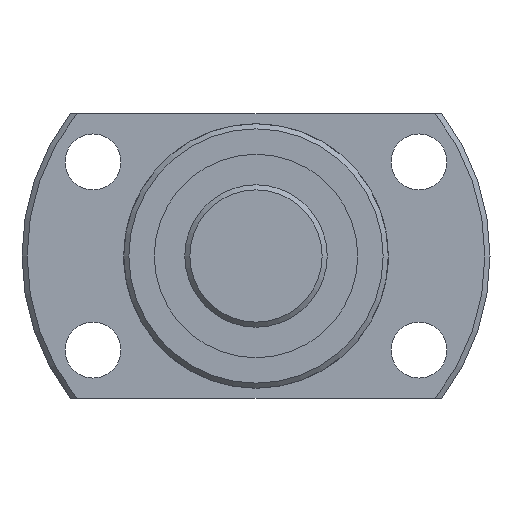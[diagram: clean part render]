
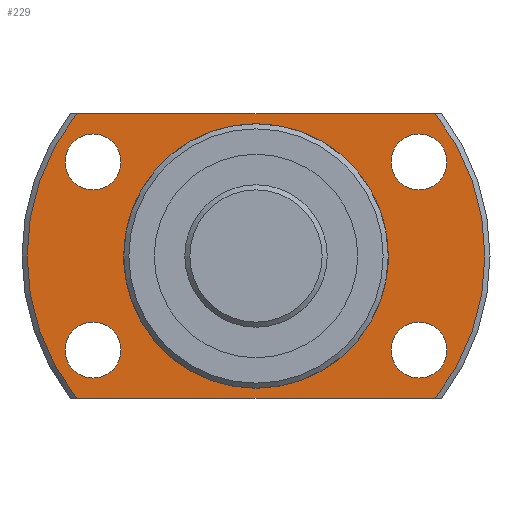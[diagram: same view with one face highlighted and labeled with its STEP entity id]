
A CAD part, left-side view. The second image highlights one B-rep face of the part: STEP entity #229.
In plain terms, the highlighted planar face has unit normal (-1, 0, 0).
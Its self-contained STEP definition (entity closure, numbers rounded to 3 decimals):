
#229 = ADVANCED_FACE( '', ( #398, #399, #400, #401, #402, #403 ), #404, .F. );
#398 = FACE_OUTER_BOUND( '', #597, .T. );
#399 = FACE_BOUND( '', #598, .T. );
#400 = FACE_BOUND( '', #599, .T. );
#401 = FACE_BOUND( '', #600, .T. );
#402 = FACE_BOUND( '', #601, .T. );
#403 = FACE_BOUND( '', #602, .T. );
#404 = PLANE( '', #603 );
#597 = EDGE_LOOP( '', ( #1066, #1067, #1068, #1069 ) );
#598 = EDGE_LOOP( '', ( #1070 ) );
#599 = EDGE_LOOP( '', ( #1071 ) );
#600 = EDGE_LOOP( '', ( #1072 ) );
#601 = EDGE_LOOP( '', ( #1073 ) );
#602 = EDGE_LOOP( '', ( #1074 ) );
#603 = AXIS2_PLACEMENT_3D( '', #1075, #1076, #1077 );
#1066 = ORIENTED_EDGE( '', *, *, #1233, .F. );
#1067 = ORIENTED_EDGE( '', *, *, #1334, .T. );
#1068 = ORIENTED_EDGE( '', *, *, #1328, .F. );
#1069 = ORIENTED_EDGE( '', *, *, #1227, .T. );
#1070 = ORIENTED_EDGE( '', *, *, #1335, .T. );
#1071 = ORIENTED_EDGE( '', *, *, #1336, .T. );
#1072 = ORIENTED_EDGE( '', *, *, #1337, .T. );
#1073 = ORIENTED_EDGE( '', *, *, #1338, .T. );
#1074 = ORIENTED_EDGE( '', *, *, #1330, .T. );
#1075 = CARTESIAN_POINT( '', ( 19., 12.8, 0. ) );
#1076 = DIRECTION( '', ( 1., 0., 0. ) );
#1077 = DIRECTION( '', ( 0., 0., -1. ) );
#1227 = EDGE_CURVE( '', #1411, #1409, #1412, .T. );
#1233 = EDGE_CURVE( '', #1422, #1409, #1423, .T. );
#1328 = EDGE_CURVE( '', #1411, #1588, #1589, .T. );
#1330 = EDGE_CURVE( '', #1591, #1591, #1592, .T. );
#1334 = EDGE_CURVE( '', #1422, #1588, #1596, .T. );
#1335 = EDGE_CURVE( '', #1597, #1597, #1598, .T. );
#1336 = EDGE_CURVE( '', #1599, #1599, #1600, .T. );
#1337 = EDGE_CURVE( '', #1601, #1601, #1602, .T. );
#1338 = EDGE_CURVE( '', #1603, #1603, #1604, .T. );
#1409 = VERTEX_POINT( '', #1692 );
#1411 = VERTEX_POINT( '', #1697 );
#1412 = LINE( '', #1698, #1699 );
#1422 = VERTEX_POINT( '', #1720 );
#1423 = CIRCLE( '', #1721, 22.5 );
#1588 = VERTEX_POINT( '', #1993 );
#1589 = CIRCLE( '', #1994, 22.5 );
#1591 = VERTEX_POINT( '', #1999 );
#1592 = CIRCLE( '', #2000, 12.8 );
#1596 = LINE( '', #2004, #2005 );
#1597 = VERTEX_POINT( '', #2006 );
#1598 = CIRCLE( '', #2007, 2.75 );
#1599 = VERTEX_POINT( '', #2008 );
#1600 = CIRCLE( '', #2009, 2.75 );
#1601 = VERTEX_POINT( '', #2010 );
#1602 = CIRCLE( '', #2011, 2.75 );
#1603 = VERTEX_POINT( '', #2012 );
#1604 = CIRCLE( '', #2013, 2.75 );
#1692 = CARTESIAN_POINT( '', ( 19., 17.614, 14. ) );
#1697 = CARTESIAN_POINT( '', ( 19., -17.614, 14. ) );
#1698 = CARTESIAN_POINT( '', ( 19., 12.8, 14. ) );
#1699 = VECTOR( '', #2108, 1000. );
#1720 = CARTESIAN_POINT( '', ( 19., 17.614, -14. ) );
#1721 = AXIS2_PLACEMENT_3D( '', #2111, #2112, #2113 );
#1993 = CARTESIAN_POINT( '', ( 19., -17.614, -14. ) );
#1994 = AXIS2_PLACEMENT_3D( '', #2277, #2278, #2279 );
#1999 = CARTESIAN_POINT( '', ( 19., 0., -12.8 ) );
#2000 = AXIS2_PLACEMENT_3D( '', #2280, #2281, #2282 );
#2004 = CARTESIAN_POINT( '', ( 19., 12.8, -14. ) );
#2005 = VECTOR( '', #2292, 1000. );
#2006 = CARTESIAN_POINT( '', ( 19., -16.021, -12. ) );
#2007 = AXIS2_PLACEMENT_3D( '', #2293, #2294, #2295 );
#2008 = CARTESIAN_POINT( '', ( 19., -16.021, 6.5 ) );
#2009 = AXIS2_PLACEMENT_3D( '', #2296, #2297, #2298 );
#2010 = CARTESIAN_POINT( '', ( 19., 16.021, -12. ) );
#2011 = AXIS2_PLACEMENT_3D( '', #2299, #2300, #2301 );
#2012 = CARTESIAN_POINT( '', ( 19., 16.021, 6.5 ) );
#2013 = AXIS2_PLACEMENT_3D( '', #2302, #2303, #2304 );
#2108 = DIRECTION( '', ( 0., 1., 0. ) );
#2111 = CARTESIAN_POINT( '', ( 19., 0., 0. ) );
#2112 = DIRECTION( '', ( 1., 0., 0. ) );
#2113 = DIRECTION( '', ( 0., 0., -1. ) );
#2277 = CARTESIAN_POINT( '', ( 19., 0., 0. ) );
#2278 = DIRECTION( '', ( 1., 0., 0. ) );
#2279 = DIRECTION( '', ( 0., 0., -1. ) );
#2280 = CARTESIAN_POINT( '', ( 19., 0., 0. ) );
#2281 = DIRECTION( '', ( 1., 0., 0. ) );
#2282 = DIRECTION( '', ( 0., 0., -1. ) );
#2292 = DIRECTION( '', ( 0., -1., 0. ) );
#2293 = CARTESIAN_POINT( '', ( 19., -16.021, -9.25 ) );
#2294 = DIRECTION( '', ( 1., 0., 0. ) );
#2295 = DIRECTION( '', ( 0., 0., -1. ) );
#2296 = CARTESIAN_POINT( '', ( 19., -16.021, 9.25 ) );
#2297 = DIRECTION( '', ( 1., 0., 0. ) );
#2298 = DIRECTION( '', ( 0., 0., -1. ) );
#2299 = CARTESIAN_POINT( '', ( 19., 16.021, -9.25 ) );
#2300 = DIRECTION( '', ( 1., 0., 0. ) );
#2301 = DIRECTION( '', ( 0., 0., -1. ) );
#2302 = CARTESIAN_POINT( '', ( 19., 16.021, 9.25 ) );
#2303 = DIRECTION( '', ( 1., 0., 0. ) );
#2304 = DIRECTION( '', ( 0., 0., -1. ) );
